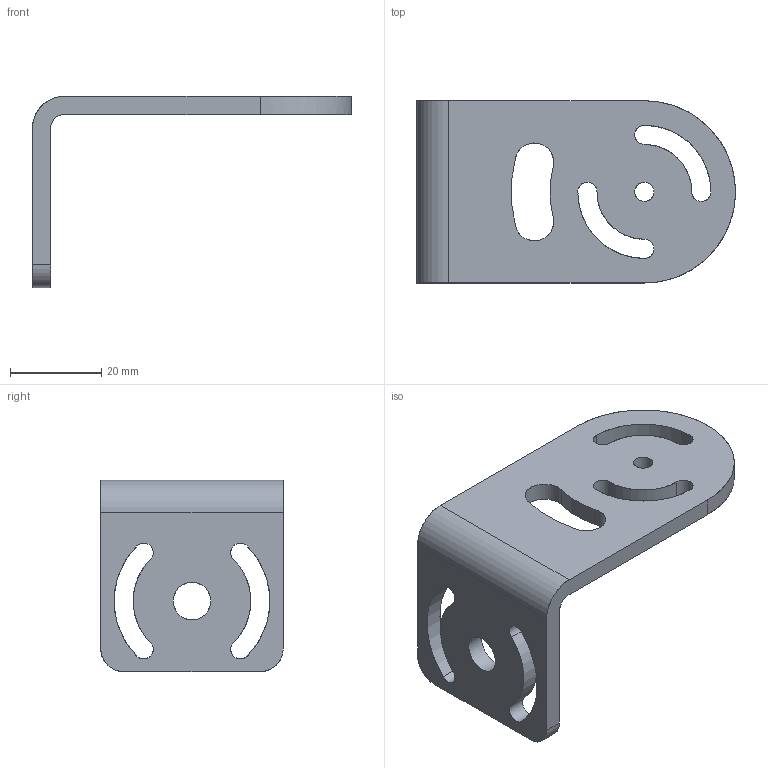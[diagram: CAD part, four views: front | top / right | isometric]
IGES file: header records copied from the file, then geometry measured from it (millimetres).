
Global section: file name: C:\Users\Acarrieri\OneDrive - Datalogic S.p.a\Desktop\PDS\00-M320\5MP\3D\DSD\DSD-1084_ST-0376\MP004537_01_IGS_DSD-1084.igs; native system: NX V1926; preprocessor: SIEMENS PLM Software NX 1946; date: 20211102.143026; units: millimetre
Bounding box: 70 x 40 x 42 mm (x, y, z)
Surface area: 9149.6 mm2 (no closed solid volume)
Topology: 0 solids, 0 shells, 34 faces, 338 edges, 338 vertices
Faces by surface type: bspline 34
